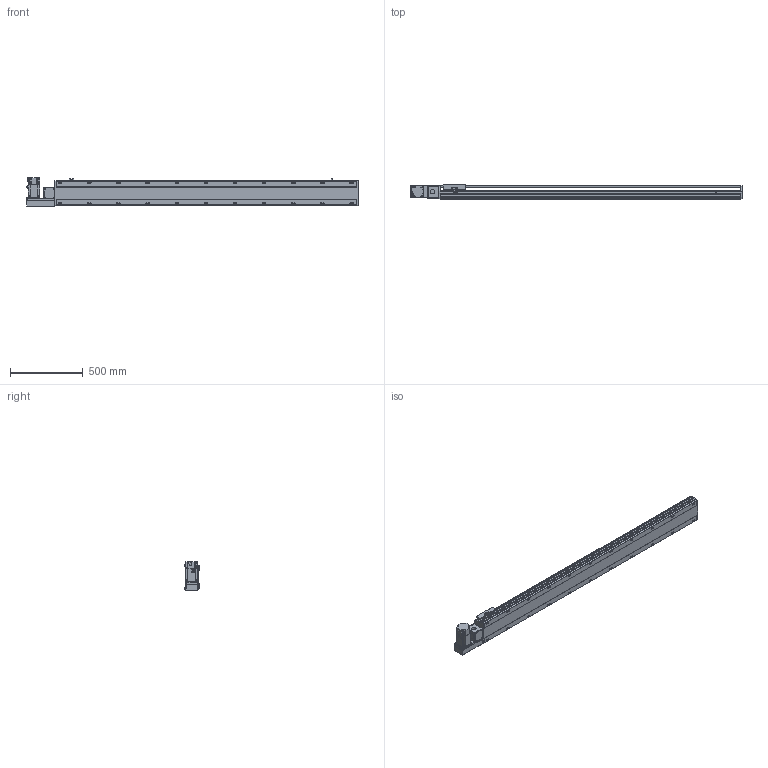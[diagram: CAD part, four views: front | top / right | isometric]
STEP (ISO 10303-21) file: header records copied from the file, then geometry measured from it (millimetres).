
FILE_DESCRIPTION( ( 'STEP AP214' ), '1' );
FILE_NAME( 'x:/temp/worker_4/temp/exporttempdir_2248_214_g2GAr/format_0/PBS170-P40-S1800-L-T75-C1-N(0).stp', '2022-06-07T06:57:47', ( 'License CC BY-ND 4.0' ), ( 'CADENAS' ), ' ', 'PARTsolutions', ' ' );
FILE_SCHEMA( ( 'AUTOMOTIVE_DESIGN { 1 0 10303 214 1 1 1 1 }' ) );
Length unit declared in the file: millimetre
Products named in the file (7): PBS170-P40-S1800-L-T75-C1-N(0); _PBS170-S1800()_body; _PBS170T-L_motors; _T75-p1; _PBS170_sliser; _PBS170_plant; _PBS170_sensor
Assembly tree (8 placements, depth 2):
  PBS170-P40-S1800-L-T75-C1-N(0)
    _PBS170-S1800()_body
    _PBS170T-L_motors
    _T75-p1
    _PBS170_sliser
    _PBS170_plant
    _PBS170_sensor  x3
Bounding box: 2278 x 97 x 197.3 mm (x, y, z)
Volume: 16692905.6 mm3; surface area: 2127027.5 mm2
Topology: 8 solids, 8 shells, 1130 faces, 2995 edges, 1952 vertices
Faces by surface type: plane 705, cylinder 363, cone 52, sphere 8, torus 2
Full cylindrical faces by diameter (mm): 3.242 x4, 4 x2, 4.4 x4, 4.5 x6, 4.917 x4, 6 x9, 6.647 x30, 7 x2, 7.5 x4, 8 x8, 8.5 x22, 10 x4, 10.5 x22, 11 x2, 30 x2, 40 x1, 70 x1
Entity records: 41666 total; most frequent: CARTESIAN_POINT 6725, DIRECTION 5510, ORIENTED_EDGE 5208, EDGE_CURVE 2604, AXIS2_PLACEMENT_3D 1927, VERTEX_POINT 1802, LINE 1656, VECTOR 1656
